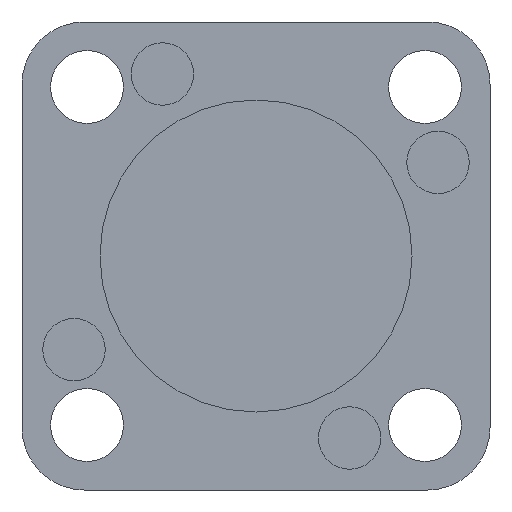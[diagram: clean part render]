
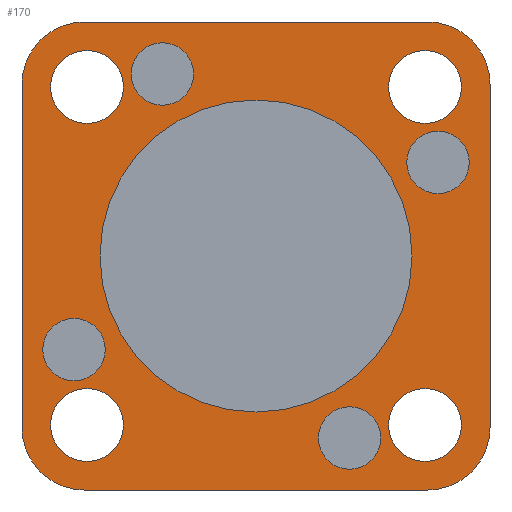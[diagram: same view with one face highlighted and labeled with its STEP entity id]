
A CAD part, front view. The second image highlights one B-rep face of the part: STEP entity #170.
In plain terms, the highlighted planar face has unit normal (0, -1, 0).
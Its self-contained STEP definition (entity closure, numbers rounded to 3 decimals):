
#170 = ADVANCED_FACE( '', ( #384, #385, #386, #387, #388, #389, #390, #391, #392, #393 ), #394, .F. );
#384 = FACE_BOUND( '', #643, .T. );
#385 = FACE_BOUND( '', #644, .T. );
#386 = FACE_BOUND( '', #645, .T. );
#387 = FACE_BOUND( '', #646, .T. );
#388 = FACE_BOUND( '', #647, .T. );
#389 = FACE_BOUND( '', #648, .T. );
#390 = FACE_BOUND( '', #649, .T. );
#391 = FACE_BOUND( '', #650, .T. );
#392 = FACE_BOUND( '', #651, .T. );
#393 = FACE_OUTER_BOUND( '', #652, .T. );
#394 = PLANE( '', #653 );
#643 = EDGE_LOOP( '', ( #1088 ) );
#644 = EDGE_LOOP( '', ( #1089 ) );
#645 = EDGE_LOOP( '', ( #1090 ) );
#646 = EDGE_LOOP( '', ( #1091 ) );
#647 = EDGE_LOOP( '', ( #1092 ) );
#648 = EDGE_LOOP( '', ( #1093 ) );
#649 = EDGE_LOOP( '', ( #1094 ) );
#650 = EDGE_LOOP( '', ( #1095 ) );
#651 = EDGE_LOOP( '', ( #1096 ) );
#652 = EDGE_LOOP( '', ( #1097, #1098, #1099, #1100, #1101, #1102, #1103, #1104 ) );
#653 = AXIS2_PLACEMENT_3D( '', #1105, #1106, #1107 );
#1088 = ORIENTED_EDGE( '', *, *, #1492, .T. );
#1089 = ORIENTED_EDGE( '', *, *, #1493, .T. );
#1090 = ORIENTED_EDGE( '', *, *, #1351, .T. );
#1091 = ORIENTED_EDGE( '', *, *, #1432, .T. );
#1092 = ORIENTED_EDGE( '', *, *, #1332, .T. );
#1093 = ORIENTED_EDGE( '', *, *, #1396, .T. );
#1094 = ORIENTED_EDGE( '', *, *, #1340, .T. );
#1095 = ORIENTED_EDGE( '', *, *, #1464, .T. );
#1096 = ORIENTED_EDGE( '', *, *, #1494, .T. );
#1097 = ORIENTED_EDGE( '', *, *, #1367, .F. );
#1098 = ORIENTED_EDGE( '', *, *, #1374, .F. );
#1099 = ORIENTED_EDGE( '', *, *, #1336, .F. );
#1100 = ORIENTED_EDGE( '', *, *, #1413, .F. );
#1101 = ORIENTED_EDGE( '', *, *, #1495, .F. );
#1102 = ORIENTED_EDGE( '', *, *, #1454, .F. );
#1103 = ORIENTED_EDGE( '', *, *, #1436, .F. );
#1104 = ORIENTED_EDGE( '', *, *, #1496, .F. );
#1105 = CARTESIAN_POINT( '', ( -16.5, 0., -16.5 ) );
#1106 = DIRECTION( '', ( 0., 1., 0. ) );
#1107 = DIRECTION( '', ( 0., 0., 1. ) );
#1332 = EDGE_CURVE( '', #1547, #1547, #1548, .T. );
#1336 = EDGE_CURVE( '', #1553, #1555, #1556, .T. );
#1340 = EDGE_CURVE( '', #1561, #1561, #1562, .T. );
#1351 = EDGE_CURVE( '', #1581, #1581, #1582, .T. );
#1367 = EDGE_CURVE( '', #1607, #1609, #1610, .T. );
#1374 = EDGE_CURVE( '', #1555, #1607, #1620, .T. );
#1396 = EDGE_CURVE( '', #1657, #1657, #1658, .T. );
#1413 = EDGE_CURVE( '', #1685, #1553, #1687, .T. );
#1432 = EDGE_CURVE( '', #1715, #1715, #1716, .T. );
#1436 = EDGE_CURVE( '', #1721, #1723, #1724, .T. );
#1454 = EDGE_CURVE( '', #1723, #1750, #1751, .T. );
#1464 = EDGE_CURVE( '', #1766, #1766, #1767, .T. );
#1492 = EDGE_CURVE( '', #1804, #1804, #1805, .T. );
#1493 = EDGE_CURVE( '', #1806, #1806, #1807, .T. );
#1494 = EDGE_CURVE( '', #1808, #1808, #1809, .T. );
#1495 = EDGE_CURVE( '', #1750, #1685, #1810, .T. );
#1496 = EDGE_CURVE( '', #1609, #1721, #1811, .T. );
#1547 = VERTEX_POINT( '', #1869 );
#1548 = CIRCLE( '', #1870, 15. );
#1553 = VERTEX_POINT( '', #1875 );
#1555 = VERTEX_POINT( '', #1878 );
#1556 = CIRCLE( '', #1879, 6. );
#1561 = VERTEX_POINT( '', #1885 );
#1562 = CIRCLE( '', #1886, 3.5 );
#1581 = VERTEX_POINT( '', #1909 );
#1582 = CIRCLE( '', #1910, 3. );
#1607 = VERTEX_POINT( '', #1942 );
#1609 = VERTEX_POINT( '', #1945 );
#1610 = CIRCLE( '', #1946, 6. );
#1620 = LINE( '', #1961, #1962 );
#1657 = VERTEX_POINT( '', #2006 );
#1658 = CIRCLE( '', #2007, 3.5 );
#1685 = VERTEX_POINT( '', #2043 );
#1687 = LINE( '', #2046, #2047 );
#1715 = VERTEX_POINT( '', #2081 );
#1716 = CIRCLE( '', #2082, 3. );
#1721 = VERTEX_POINT( '', #2087 );
#1723 = VERTEX_POINT( '', #2090 );
#1724 = CIRCLE( '', #2091, 6. );
#1750 = VERTEX_POINT( '', #2125 );
#1751 = LINE( '', #2126, #2127 );
#1766 = VERTEX_POINT( '', #2148 );
#1767 = CIRCLE( '', #2149, 3.5 );
#1804 = VERTEX_POINT( '', #2202 );
#1805 = CIRCLE( '', #2203, 3. );
#1806 = VERTEX_POINT( '', #2204 );
#1807 = CIRCLE( '', #2205, 3. );
#1808 = VERTEX_POINT( '', #2206 );
#1809 = CIRCLE( '', #2207, 3.5 );
#1810 = CIRCLE( '', #2208, 6. );
#1811 = LINE( '', #2209, #2210 );
#1869 = CARTESIAN_POINT( '', ( 15., 0., 0. ) );
#1870 = AXIS2_PLACEMENT_3D( '', #2277, #2278, #2279 );
#1875 = CARTESIAN_POINT( '', ( 22.5, 0., -16.5 ) );
#1878 = CARTESIAN_POINT( '', ( 16.5, 0., -22.5 ) );
#1879 = AXIS2_PLACEMENT_3D( '', #2284, #2285, #2286 );
#1885 = CARTESIAN_POINT( '', ( -16.25, 0., 19.75 ) );
#1886 = AXIS2_PLACEMENT_3D( '', #2291, #2292, #2293 );
#1909 = CARTESIAN_POINT( '', ( -6., 0., 17.5 ) );
#1910 = AXIS2_PLACEMENT_3D( '', #2310, #2311, #2312 );
#1942 = CARTESIAN_POINT( '', ( -16.5, 0., -22.5 ) );
#1945 = CARTESIAN_POINT( '', ( -22.5, 0., -16.5 ) );
#1946 = AXIS2_PLACEMENT_3D( '', #2330, #2331, #2332 );
#1961 = CARTESIAN_POINT( '', ( 16.5, 0., -22.5 ) );
#1962 = VECTOR( '', #2338, 1000. );
#2006 = CARTESIAN_POINT( '', ( 16.25, 0., 19.75 ) );
#2007 = AXIS2_PLACEMENT_3D( '', #2376, #2377, #2378 );
#2043 = CARTESIAN_POINT( '', ( 22.5, 0., 16.5 ) );
#2046 = CARTESIAN_POINT( '', ( 22.5, 0., 16.5 ) );
#2047 = VECTOR( '', #2395, 1000. );
#2081 = CARTESIAN_POINT( '', ( 20.5, 0., 9. ) );
#2082 = AXIS2_PLACEMENT_3D( '', #2423, #2424, #2425 );
#2087 = CARTESIAN_POINT( '', ( -22.5, 0., 16.5 ) );
#2090 = CARTESIAN_POINT( '', ( -16.5, 0., 22.5 ) );
#2091 = AXIS2_PLACEMENT_3D( '', #2430, #2431, #2432 );
#2125 = CARTESIAN_POINT( '', ( 16.5, 0., 22.5 ) );
#2126 = CARTESIAN_POINT( '', ( -16.5, 0., 22.5 ) );
#2127 = VECTOR( '', #2450, 1000. );
#2148 = CARTESIAN_POINT( '', ( 16.25, 0., -12.75 ) );
#2149 = AXIS2_PLACEMENT_3D( '', #2460, #2461, #2462 );
#2202 = CARTESIAN_POINT( '', ( 12., 0., -17.5 ) );
#2203 = AXIS2_PLACEMENT_3D( '', #2491, #2492, #2493 );
#2204 = CARTESIAN_POINT( '', ( -14.5, 0., -9. ) );
#2205 = AXIS2_PLACEMENT_3D( '', #2494, #2495, #2496 );
#2206 = CARTESIAN_POINT( '', ( -16.25, 0., -12.75 ) );
#2207 = AXIS2_PLACEMENT_3D( '', #2497, #2498, #2499 );
#2208 = AXIS2_PLACEMENT_3D( '', #2500, #2501, #2502 );
#2209 = CARTESIAN_POINT( '', ( -22.5, 0., -16.5 ) );
#2210 = VECTOR( '', #2503, 1000. );
#2277 = CARTESIAN_POINT( '', ( 0., 0., 0. ) );
#2278 = DIRECTION( '', ( 0., 1., 0. ) );
#2279 = DIRECTION( '', ( 1., 0., 0. ) );
#2284 = CARTESIAN_POINT( '', ( 16.5, 0., -16.5 ) );
#2285 = DIRECTION( '', ( 0., 1., 0. ) );
#2286 = DIRECTION( '', ( 1., 0., 0. ) );
#2291 = CARTESIAN_POINT( '', ( -16.25, 0., 16.25 ) );
#2292 = DIRECTION( '', ( 0., 1., 0. ) );
#2293 = DIRECTION( '', ( 0., 0., 1. ) );
#2310 = CARTESIAN_POINT( '', ( -9., 0., 17.5 ) );
#2311 = DIRECTION( '', ( 0., 1., 0. ) );
#2312 = DIRECTION( '', ( 1., 0., 0. ) );
#2330 = CARTESIAN_POINT( '', ( -16.5, 0., -16.5 ) );
#2331 = DIRECTION( '', ( 0., 1., 0. ) );
#2332 = DIRECTION( '', ( 1., 0., 0. ) );
#2338 = DIRECTION( '', ( -1., 0., 0. ) );
#2376 = CARTESIAN_POINT( '', ( 16.25, 0., 16.25 ) );
#2377 = DIRECTION( '', ( 0., 1., 0. ) );
#2378 = DIRECTION( '', ( 0., 0., 1. ) );
#2395 = DIRECTION( '', ( 0., 0., -1. ) );
#2423 = CARTESIAN_POINT( '', ( 17.5, 0., 9. ) );
#2424 = DIRECTION( '', ( 0., 1., 0. ) );
#2425 = DIRECTION( '', ( 1., 0., 0. ) );
#2430 = CARTESIAN_POINT( '', ( -16.5, 0., 16.5 ) );
#2431 = DIRECTION( '', ( 0., 1., 0. ) );
#2432 = DIRECTION( '', ( 1., 0., 0. ) );
#2450 = DIRECTION( '', ( 1., 0., 0. ) );
#2460 = CARTESIAN_POINT( '', ( 16.25, 0., -16.25 ) );
#2461 = DIRECTION( '', ( 0., 1., 0. ) );
#2462 = DIRECTION( '', ( 0., 0., 1. ) );
#2491 = CARTESIAN_POINT( '', ( 9., 0., -17.5 ) );
#2492 = DIRECTION( '', ( 0., 1., 0. ) );
#2493 = DIRECTION( '', ( 1., 0., 0. ) );
#2494 = CARTESIAN_POINT( '', ( -17.5, 0., -9. ) );
#2495 = DIRECTION( '', ( 0., 1., 0. ) );
#2496 = DIRECTION( '', ( 1., 0., 0. ) );
#2497 = CARTESIAN_POINT( '', ( -16.25, 0., -16.25 ) );
#2498 = DIRECTION( '', ( 0., 1., 0. ) );
#2499 = DIRECTION( '', ( 0., 0., 1. ) );
#2500 = CARTESIAN_POINT( '', ( 16.5, 0., 16.5 ) );
#2501 = DIRECTION( '', ( 0., 1., 0. ) );
#2502 = DIRECTION( '', ( 1., 0., 0. ) );
#2503 = DIRECTION( '', ( 0., 0., 1. ) );
